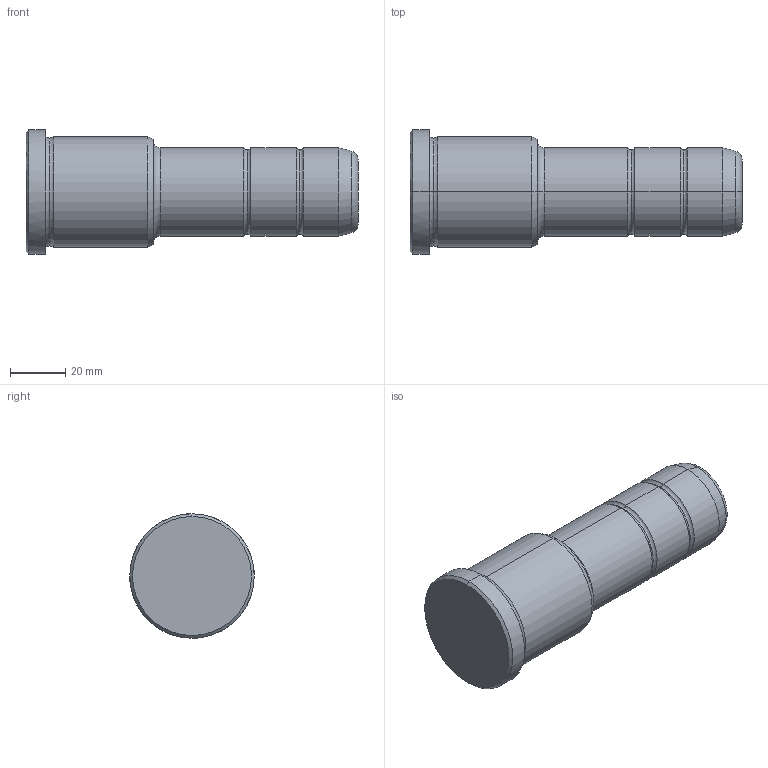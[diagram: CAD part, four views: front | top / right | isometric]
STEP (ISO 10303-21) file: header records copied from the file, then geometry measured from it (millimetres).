
FILE_DESCRIPTION(('CATIA V5 STEP Exchange'),'2;1');
FILE_NAME('C:\Users\Utente\Desktop\IO LAVORO\3D X SITO CF\X SITO\PLASTICA\351\351-32X46X120.stp','2021-09-07T12:45:00+00:00',('none'),('none'),'CATIA Version 5 Release 20 GA (IN-10)','CATIA V5 STEP AP203','none');
FILE_SCHEMA(('CONFIG_CONTROL_DESIGN'));
Length unit declared in the file: millimetre
Products named in the file (1): 351-32X46X120
Bounding box: 120 x 45 x 45 mm (x, y, z)
Volume: 118450.9 mm3; surface area: 16081.3 mm2
Topology: 1 solids, 1 shells, 36 faces, 102 edges, 70 vertices
Faces by surface type: torus 16, cylinder 10, cone 6, plane 4
Entity records: 1292 total; most frequent: CARTESIAN_POINT 321, ORIENTED_EDGE 204, DIRECTION 166, AXIS2_PLACEMENT_3D 115, EDGE_CURVE 102, CIRCLE 78, VERTEX_POINT 70, EDGE_LOOP 38
